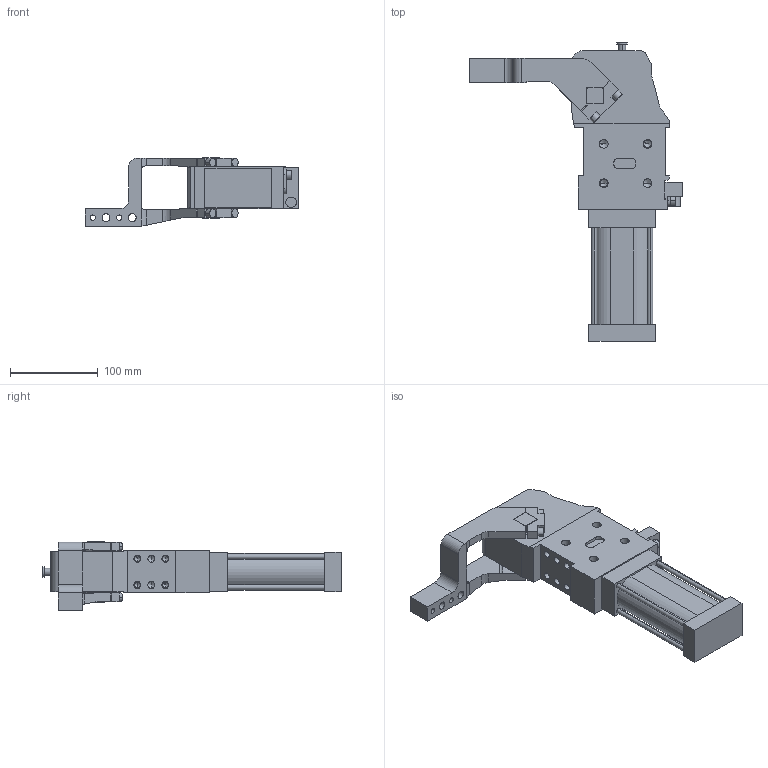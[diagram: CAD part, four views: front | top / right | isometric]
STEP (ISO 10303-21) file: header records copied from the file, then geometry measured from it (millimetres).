
FILE_DESCRIPTION (( 'STEP AP214' ), '1' );
FILE_NAME ('cpl50v1di1g_135.STEP', '2023-01-26T08:45:10', ( '' ), ( '' ), 'SwSTEP 2.0', 'SolidWorks 2022', '' );
FILE_SCHEMA (( 'AUTOMOTIVE_DESIGN' ));
Length unit declared in the file: millimetre
Products named in the file (4): blocchetto_VEP_0; meccanica_cpl_50; leva_dx_offset_15_cpl50; cpl50v1di1g_135
Assembly tree (3 placements, depth 2):
  cpl50v1di1g_135
    meccanica_cpl_50
    blocchetto_VEP_0
    leva_dx_offset_15_cpl50
Bounding box: 244.5 x 341 x 78.5 mm (x, y, z)
Volume: 1387864 mm3; surface area: 163615.7 mm2
Topology: 3 solids, 3 shells, 399 faces, 1029 edges, 639 vertices
Faces by surface type: plane 193, cylinder 156, cone 50
Entity records: 13413 total; most frequent: CARTESIAN_POINT 2115, DIRECTION 2109, ORIENTED_EDGE 1966, EDGE_CURVE 983, AXIS2_PLACEMENT_3D 731, LINE 647, VECTOR 647, VERTEX_POINT 639
